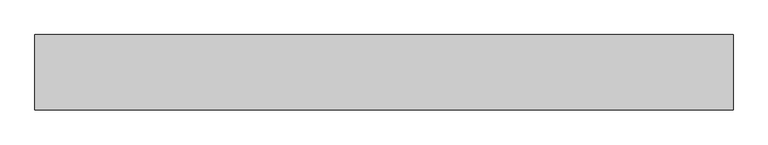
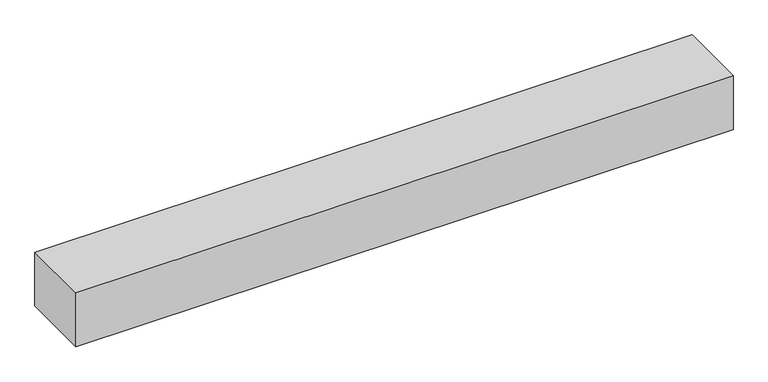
"""IFC4 building model written with IfcOpenShell, lengths in millimetres: geographic element geometry, r 低木密植 : 低木密植."""

from ifc_helpers import new_model, si_unit, origin, origin_with_axes, place, context, project, spatial, polyline, outline, extrude, source, transform, mapped, element, save


def geographic_element_a76cbde5(model_context):
    return source(origin(), model_context, "Body", "SweptSolid", [
        extrude(outline(polyline([(0.0, 0.0), (0.0, 500.0), (4619.0290358, 500.0), (4619.0290358, 0.0), (0.0, 0.0)])), origin_with_axes(), (0.0, 0.0, 1.0), 400.0),
    ])


if __name__ == "__main__":
    model = new_model("IFC4")
    model_context = context("Model", 3, world=origin())
    ifc_project = project(units=[si_unit("LENGTHUNIT", "METRE", prefix="MILLI")], contexts=[model_context])
    site = spatial("IfcSite", under=ifc_project)
    building = spatial("IfcBuilding", under=site)
    placement = place(None, origin())
    geographic_element_shape = geographic_element_a76cbde5(model_context)
    element("IfcGeographicElement", 1, ObjectType="r 低木密植 : 低木密植", at=placement, inside=building, context=model_context, shape_type="MappedRepresentation", body=[
        mapped(geographic_element_shape, transform((0.0, 0.0, 0.0), x_axis=(1.0, 0.0, 0.0), y_axis=(0.0, 1.0, 0.0), z_axis=(0.0, 0.0, 1.0))),
    ])
    save(model, "model.ifc")
